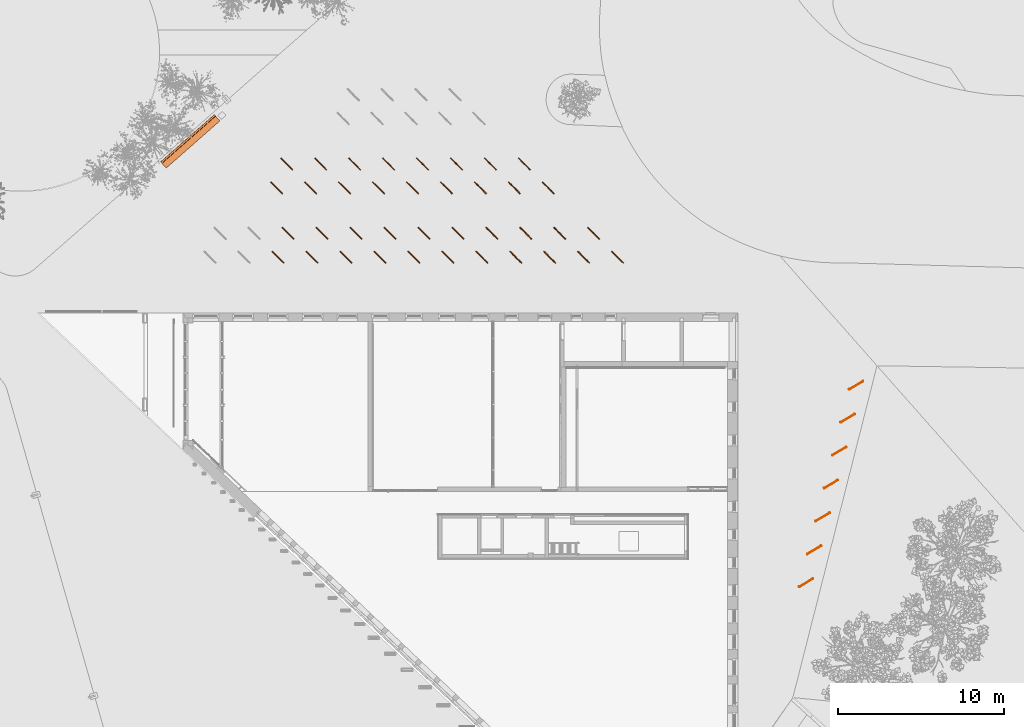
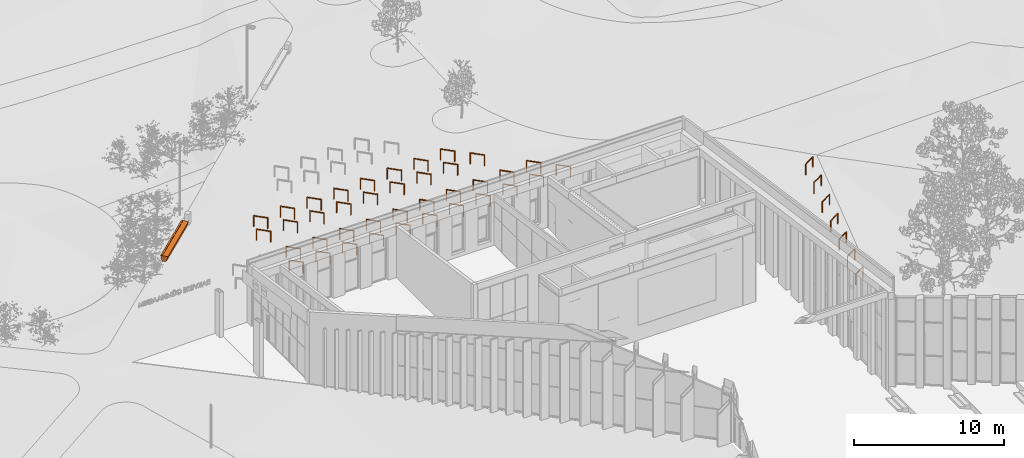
# One storey, part 223 of 246: 46 proxies.
"""IFC2X3 building model written with IfcOpenShell, lengths in millimetres."""

from ifc_helpers import new_model, entity, si_unit, converted_unit, derived_unit, money_unit, direction, frame, origin_with_axes, place, context, subcontext, project, spatial, faceted_brep, material, material_list, type_object, element, save


model = new_model("IFC2X3")

# Units and contexts
model_context = context("Model", 3, precision=0.01, world=origin_with_axes(), true_north=direction((0.0, 1.0)))
body_context = subcontext(model_context, "Body", "Model", "MODEL_VIEW")
ifc_project = project(units=[si_unit("LENGTHUNIT", "METRE", prefix="MILLI"), si_unit("AREAUNIT", "SQUARE_METRE"), si_unit("VOLUMEUNIT", "CUBIC_METRE"), converted_unit("PLANEANGLEUNIT", "DEGREE", entity("IfcPlaneAngleMeasure", 0.0174532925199), si_unit("PLANEANGLEUNIT", "RADIAN"), dimensions=[0, 0, 0, 0, 0, 0, 0]), si_unit("SOLIDANGLEUNIT", "STERADIAN"), money_unit("EUR"), converted_unit("TIMEUNIT", "Year", entity("IfcTimeMeasure", 31556926.0), si_unit("TIMEUNIT", "SECOND"), dimensions=[0, 0, 1, 0, 0, 0, 0]), si_unit("MASSUNIT", "GRAM", prefix="KILO"), si_unit("THERMODYNAMICTEMPERATUREUNIT", "DEGREE_CELSIUS"), si_unit("LUMINOUSINTENSITYUNIT", "LUMEN"), si_unit("ENERGYUNIT", "JOULE", prefix="MEGA"), derived_unit("THERMALCONDUCTANCEUNIT", [(si_unit("POWERUNIT", "WATT"), 1), (si_unit("LENGTHUNIT", "METRE"), -1), (si_unit("THERMODYNAMICTEMPERATUREUNIT", "KELVIN"), -1)]), derived_unit("SPECIFICHEATCAPACITYUNIT", [(si_unit("ENERGYUNIT", "JOULE"), 1), (si_unit("MASSUNIT", "GRAM", prefix="KILO"), -1), (si_unit("THERMODYNAMICTEMPERATUREUNIT", "KELVIN"), -1)]), derived_unit("MASSDENSITYUNIT", [(si_unit("MASSUNIT", "GRAM", prefix="KILO"), 1), (si_unit("VOLUMEUNIT", "CUBIC_METRE"), -1)])], contexts=[model_context])

# Site, building, storey
site_placement = place(None, origin_with_axes())
site = spatial("IfcSite", under=ifc_project, at=site_placement, Name="L.Koidula tn 11b", CompositionType="ELEMENT")
building_placement = place(site_placement, origin_with_axes())
building = spatial("IfcBuilding", under=site, at=building_placement, Name="Rakvere Riigigümnaasium", CompositionType="ELEMENT")
storey_placement = place(building_placement, origin_with_axes())
storey = spatial("IfcBuildingStorey", under=building, at=storey_placement, Name="1.korrus 0,00", CompositionType="ELEMENT", Elevation=0.0)

# Proxies
ifc_material_1 = material(Name="teras_must")
building_element_proxy_type_1 = type_object("IfcBuildingElementProxyType", Name="Rattahoidja 1000 x 900", PredefinedType="NOTDEFINED")
for number, where, z_axis, x_axis, name in (
    (1, (53671.6322781, 62059.1973258, 188.081456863), (0.0, 0.0, 1.0), (0.511671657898, -0.859181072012, 0.0), "Ratas-01"),
    (2, (54679.713652, 66034.5931504, 525.041038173), (0.0, 0.0, 1.0), (0.511671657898, -0.859181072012, 0.0), "Ratas-01"),
    (3, (53167.6062665, 60071.4747736, 69.0946552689), (0.0, 0.0, 1.0), (0.511671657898, -0.859181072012, 0.0), "Ratas-02"),
    (4, (24330.0528675, 75149.883562, 11.2237541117), (0.0, 0.0, 1.0), (-0.707106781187, -0.707106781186, 0.0), "Ratas-02"),
    (5, (52159.9001142, 56095.9838209, 17.9941645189), (0.0, 0.0, 1.0), (0.511671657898, -0.859181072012, 0.0), "Ratas-02"),
    (6, (52664.0088314, 58083.5667899, 62.5270350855), (0.0, 0.0, 1.0), (0.511671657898, -0.859181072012, 0.0), "Ratas-01"),
    (7, (35107.5438303, 80777.2699228, 389.50624671), (0.0, 0.0, 1.0), (-0.707106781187, -0.707106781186, 0.0), "Ratas-01"),
    (8, (33056.9341649, 80777.2699228, 328.445826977), (0.0, 0.0, 1.0), (-0.707106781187, -0.707106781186, 0.0), "Ratas-02"),
    (9, (31006.3244994, 80777.2699228, 270.716169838), (0.0, 0.0, 1.0), (-0.707106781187, -0.707106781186, 0.0), "Ratas-01"),
    (10, (28955.714834, 80777.2699228, 155.643490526), (0.0, 0.0, 1.0), (-0.707106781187, -0.707106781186, 0.0), "Ratas-01"),
    (11, (26905.1051685, 80777.2699228, 69.4424266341), (0.0, 0.0, 1.0), (-0.707106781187, -0.707106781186, 0.0), "Ratas-01"),
    (12, (24854.4955031, 80777.2699228, 58.4671098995), (0.0, 0.0, 1.0), (-0.707106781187, -0.707106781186, 0.0), "Ratas-02"),
    (13, (22803.8858377, 80777.2699228, 51.5769666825), (0.0, 0.0, 1.0), (-0.707106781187, -0.707106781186, 0.0), "Ratas-01"),
    (14, (36550.0059505, 79334.8078025, 441.974559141), (0.0, 0.0, 1.0), (-0.707106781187, -0.707106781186, 0.0), "Ratas-02"),
    (15, (34499.3962851, 79334.8078025, 386.447548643), (0.0, 0.0, 1.0), (-0.707106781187, -0.707106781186, 0.0), "Ratas-01"),
    (16, (32448.7866197, 79334.8078025, 314.762000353), (0.0, 0.0, 1.0), (-0.707106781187, -0.707106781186, 0.0), "Ratas-01"),
    (17, (30398.1769542, 79334.8078025, 238.924099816), (0.0, 0.0, 1.0), (-0.707106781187, -0.707106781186, 0.0), "Ratas-01"),
    (18, (28347.5672888, 79334.8078025, 125.158047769), (0.0, 0.0, 1.0), (-0.707106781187, -0.707106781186, 0.0), "Ratas-02"),
    (19, (26296.9576233, 79334.8078025, 53.6819448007), (0.0, 0.0, 1.0), (-0.707106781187, -0.707106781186, 0.0), "Ratas-01"),
    (20, (24246.3479579, 79334.8078025, 46.6106692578), (0.0, 0.0, 1.0), (-0.707106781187, -0.707106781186, 0.0), "Ratas-01"),
    (21, (22195.7382925, 79334.8078025, 36.7958194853), (0.0, 0.0, 1.0), (-0.707106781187, -0.707106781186, 0.0), "Ratas-01"),
    (22, (20753.2761722, 80777.2699228, 0.0), (0.0, 0.0, 1.0), (-0.707106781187, -0.707106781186, 0.0), "Ratas-01"),
    (23, (39292.4680708, 76592.3456823, 521.51756471), (0.0, 0.0, 1.0), (-0.707106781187, -0.707106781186, 0.0), "Ratas-01"),
    (24, (37241.8584054, 76592.3456823, 462.217435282), (0.0, 0.0, 1.0), (-0.707106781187, -0.707106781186, 0.0), "Ratas-02"),
    (25, (35191.2487399, 76592.3456823, 393.407665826), (0.0, 0.0, 1.0), (-0.707106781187, -0.707106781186, 0.0), "Ratas-01"),
    (26, (33140.6390745, 76592.3456823, 316.113312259), (0.0, 0.0, 1.0), (-0.707106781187, -0.707106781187, 0.0), "Ratas-01"),
    (27, (31090.029409, 76592.3456823, 235.677603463), (0.0, 0.0, 1.0), (-0.707106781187, -0.707106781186, 0.0), "Ratas-01"),
    (28, (29039.4197436, 76592.3456823, 161.769958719), (0.0, 0.0, 1.0), (-0.707106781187, -0.707106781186, 0.0), "Ratas-02"),
    (29, (26988.8100781, 76592.3456823, 56.0081255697), (0.0, 0.0, 1.0), (-0.707106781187, -0.707106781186, 0.0), "Ratas-01"),
    (30, (24938.2004127, 76592.3456823, 23.0738962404), (0.0, 0.0, 1.0), (-0.707106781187, -0.707106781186, 0.0), "Ratas-01"),
    (31, (22887.5907473, 76592.3456823, 23.0738962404), (0.0, 0.0, 1.0), (-0.707106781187, -0.707106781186, 0.0), "Ratas-01"),
    (32, (20836.7140513, 76592.3456823, 4.12775264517), (0.0, 0.0, 1.0), (-0.707106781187, -0.707106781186, 0.0), "Ratas-02"),
    (33, (20145.128627, 79334.8078025, -8.0590762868), (0.0, 0.0, 1.0), (-0.707106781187, -0.707106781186, 0.0), "Ratas-02"),
    (34, (40734.930191, 75149.883562, 569.928119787), (0.0, 0.0, 1.0), (-0.707106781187, -0.707106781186, 0.0), "Ratas-02"),
    (35, (38684.3205256, 75149.883562, 505.168352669), (0.0, 0.0, 1.0), (-0.707106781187, -0.707106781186, 0.0), "Ratas-01"),
    (36, (36633.7108602, 75149.883562, 431.551912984), (0.0, 0.0, 1.0), (-0.707106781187, -0.707106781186, 0.0), "Ratas-01"),
    (37, (34583.1011947, 75149.883562, 364.387661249), (0.0, 0.0, 1.0), (-0.707106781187, -0.707106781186, 0.0), "Ratas-01"),
    (38, (32532.4915293, 75149.883562, 277.104972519), (0.0, 0.0, 1.0), (-0.707106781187, -0.707106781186, 0.0), "Ratas-02"),
    (39, (30481.8818638, 75149.883562, 199.261623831), (0.0, 0.0, 1.0), (-0.707106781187, -0.707106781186, 0.0), "Ratas-01"),
    (40, (28431.2721984, 75149.883562, 125.447417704), (0.0, 0.0, 1.0), (-0.707106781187, -0.707106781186, 0.0), "Ratas-01"),
    (41, (26380.662533, 75149.883562, 20.2684486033), (0.0, 0.0, 1.0), (-0.707106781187, -0.707106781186, 0.0), "Ratas-01"),
    (42, (22279.4432021, 75149.883562, 11.2237541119), (0.0, 0.0, 1.0), (-0.707106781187, -0.707106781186, 0.0), "Ratas-01"),
    (43, (20228.8335366, 75149.883562, -11.7847502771), (0.0, 0.0, 1.0), (-0.707106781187, -0.707106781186, 0.0), "Ratas-01"),
    (44, (55183.8802876, 68022.0788601, 630.180470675), (0.0, 0.0, 1.0), (0.511671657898, -0.859181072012, 0.0), "Ratas-02"),
    (45, (54176.0628574, 64046.7754665, 339.230469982), (0.0, 0.0, 1.0), (0.511671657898, -0.859181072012, 0.0), "Ratas-02"),
):
    element("IfcBuildingElementProxy", number, at=place(storey_placement, frame(where, z_axis=z_axis, x_axis=x_axis)), inside=storey, type_object=building_element_proxy_type_1, material=ifc_material_1, Name=name, context=body_context, shape_type="Brep", body=[
        faceted_brep([(0.0, 0.0, 0.0), (50.0, 0.0, 0.0), (50.0, -30.0, 0.0), (0.0, -30.0, 0.0), (0.0, 0.0, 900.0), (50.0, 0.0, 900.0), (50.0, -1000.0, 900.0), (50.0, -1000.0, 0.0), (50.0, -970.0, 0.0), (50.0, -970.0, 862.0), (50.0, -30.0, 862.0), (0.0, -30.0, 862.0), (0.0, -970.0, 862.0), (0.0, -970.0, 0.0), (0.0, -1000.0, 0.0), (0.0, -1000.0, 900.0)], [[[0, 1, 2, 3]], [[4, 5, 1, 0]], [[2, 1, 5, 6, 7, 8, 9, 10]], [[3, 2, 10, 11]], [[4, 0, 3, 11, 12, 13, 14, 15]], [[15, 6, 5, 4]], [[14, 7, 6, 15]], [[13, 8, 7, 14]], [[12, 9, 8, 13]], [[11, 10, 9, 12]]]),
    ])
ifc_material_2 = material(Name="Betoon")
ifc_material_3 = material(Name="Puit-pink")
ifc_material_list = material_list([ifc_material_2, ifc_material_3])
building_element_proxy_type_2 = type_object("IfcBuildingElementProxyType", Name="PINK llaudisega 514 x 450", PredefinedType="NOTDEFINED")
proxy_placement = place(storey_placement, frame((15869.7449684, 84255.4701131, -51.8275790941), z_axis=(0.0, 0.0, 1.0), x_axis=(-0.660196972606, 0.751092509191, 0.0)))
element("IfcBuildingElementProxy", 46, at=proxy_placement, inside=storey, type_object=building_element_proxy_type_2, material=ifc_material_list, Name="Pink", context=body_context, shape_type="Brep", body=[
    faceted_brep([(-662.126380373, 0.0, 352.544785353), (-662.126380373, 4318.41318317, 352.544785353), (-666.056743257, 4318.41318317, 350.635456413), (-666.056743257, 0.0, 350.635456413), (-330.567966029, 0.0, 352.544783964), (-330.567966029, 4318.41318317, 352.544783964), (-327.006798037, 4318.41318317, 352.544785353), (-323.076435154, 4318.41318317, 354.454114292), (-322.147814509, 4318.41318317, 358.723886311), (-330.069378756, 4318.41318317, 391.368037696), (-329.140758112, 4318.41318317, 395.637809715), (-325.210395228, 4318.41318317, 397.547138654), (-216.960022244, 4318.41318317, 397.547138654), (-213.424488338, 4318.41318317, 396.08267256), (-211.960022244, 4318.41318317, 392.547138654), (-212.101038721, 4318.41318317, 391.368037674), (-319.801002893, 4318.41318317, -52.4551463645), (-570.205858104, 4318.41318317, -52.4551468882), (-583.791921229, 4318.41318317, 3.53196799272), (-666.985363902, 4318.41318317, 346.365684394), (-666.985363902, 0.0, 346.365684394), (-583.791921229, 0.0, 3.53196799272), (-570.205858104, 0.0, -52.4551468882), (-319.801002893, 0.0, -52.4551463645), (-212.101038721, 0.0, 391.368037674), (-211.960022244, 0.0, 392.547138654), (-213.424488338, 0.0, 396.08267256), (-216.960022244, 0.0, 397.547138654), (-325.210395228, 0.0, 397.547138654), (-329.140758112, 0.0, 395.637809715), (-330.069378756, 0.0, 391.368037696), (-322.147814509, 0.0, 358.723886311), (-323.076435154, 0.0, 354.454114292), (-327.006798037, 0.0, 352.544785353)], [[[0, 1, 2, 3]], [[4, 5, 1, 0]], [[2, 1, 5, 6, 7, 8, 9, 10, 11, 12, 13, 14, 15, 16, 17, 18, 19]], [[3, 2, 19, 20]], [[4, 0, 3, 20, 21, 22, 23, 24, 25, 26, 27, 28, 29, 30, 31, 32, 33]], [[33, 6, 5, 4]], [[32, 7, 6, 33]], [[31, 8, 7, 32]], [[30, 9, 8, 31]], [[29, 10, 9, 30]], [[28, 11, 10, 29]], [[27, 12, 11, 28]], [[26, 13, 12, 27]], [[25, 14, 13, 26]], [[24, 15, 14, 25]], [[23, 16, 15, 24]], [[22, 17, 16, 23]], [[21, 18, 17, 22]], [[20, 19, 18, 21]]]),
    faceted_brep([(-725.711246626, 0.0, 397.54713856), (-725.711246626, 4318.41318317, 397.54713856), (-630.097906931, 4318.41318317, 3.53196799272), (-630.097906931, 0.0, 3.53196799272), (-341.626517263, 0.0, 397.54713856), (-341.626517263, 4318.41318317, 397.54713856), (-330.567966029, 4318.41318317, 352.544783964), (-662.126380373, 4318.41318317, 352.544785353), (-668.484809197, 4318.41318317, 352.544783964), (-666.985363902, 4318.41318317, 346.365684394), (-583.791921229, 4318.41318317, 3.53196799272), (-583.791921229, 0.0, 3.53196799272), (-666.985363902, 0.0, 346.365684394), (-668.484809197, 0.0, 352.544783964), (-662.126380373, 0.0, 352.544785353), (-330.567966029, 0.0, 352.544783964)], [[[0, 1, 2, 3]], [[4, 5, 1, 0]], [[2, 1, 5, 6, 7, 8, 9, 10]], [[3, 2, 10, 11]], [[4, 0, 3, 11, 12, 13, 14, 15]], [[15, 6, 5, 4]], [[14, 7, 6, 15]], [[13, 8, 7, 14]], [[12, 9, 8, 13]], [[11, 10, 9, 12]]]),
])

save(model, "model.ifc")
